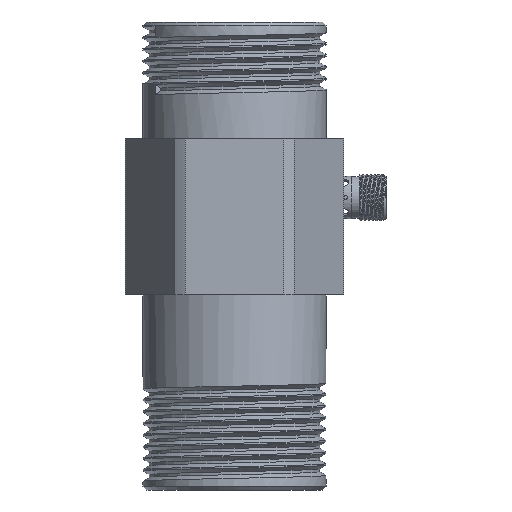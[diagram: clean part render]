
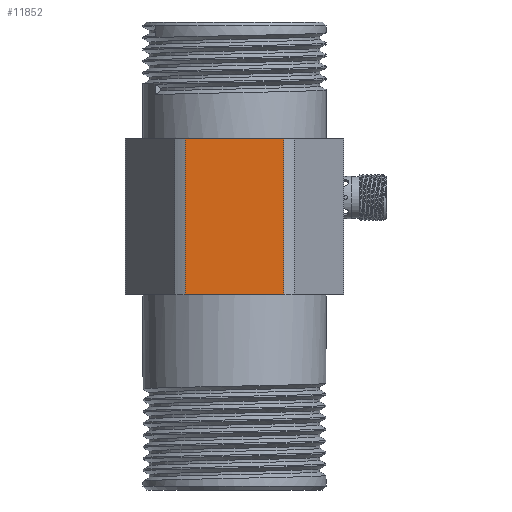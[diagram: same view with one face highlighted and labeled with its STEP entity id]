
A CAD part, front view. The second image highlights one B-rep face of the part: STEP entity #11852.
In plain terms, the highlighted planar face has unit normal (0, -1, 0) as drawn and (-0.5, -0.866, 0) by its records, which use the part's own axes.
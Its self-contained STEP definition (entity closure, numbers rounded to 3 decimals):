
#922 = DIRECTION ( 'NONE',  ( -0.5, -0.866, 0. ) ) ;
#1337 = VECTOR ( 'NONE', #17941, 1000. ) ;
#1445 = VECTOR ( 'NONE', #17971, 1000. ) ;
#1850 = VECTOR ( 'NONE', #9676, 1000. ) ;
#2015 = EDGE_LOOP ( 'NONE', ( #13960, #4969, #20098, #20766 ) ) ;
#2734 = CARTESIAN_POINT ( 'NONE',  ( -25., -14.434, -10. ) ) ;
#3015 = LINE ( 'NONE', #8627, #1337 ) ;
#3712 = DIRECTION ( 'NONE',  ( 0., 0., -1. ) ) ;
#4969 = ORIENTED_EDGE ( 'NONE', *, *, #23495, .T. ) ;
#5467 = EDGE_CURVE ( 'NONE', #8408, #7662, #12783, .T. ) ;
#6219 = CARTESIAN_POINT ( 'NONE',  ( -23.42, -15.346, -10. ) ) ;
#7662 = VERTEX_POINT ( 'NONE', #12949 ) ;
#8336 = CARTESIAN_POINT ( 'NONE',  ( -1.58, -27.955, -10. ) ) ;
#8408 = VERTEX_POINT ( 'NONE', #16759 ) ;
#8453 = FACE_OUTER_BOUND ( 'NONE', #2015, .T. ) ;
#8569 = VECTOR ( 'NONE', #3712, 1000. ) ;
#8627 = CARTESIAN_POINT ( 'NONE',  ( -25., -14.434, -10. ) ) ;
#9676 = DIRECTION ( 'NONE',  ( -0.866, 0.5, 0. ) ) ;
#10125 = DIRECTION ( 'NONE',  ( 0.866, -0.5, 0. ) ) ;
#11852 = ADVANCED_FACE ( 'NONE', ( #8453 ), #11924, .T. ) ;
#11924 = PLANE ( 'NONE',  #21775 ) ;
#12783 = LINE ( 'NONE', #18639, #1850 ) ;
#12790 = CARTESIAN_POINT ( 'NONE',  ( -23.42, -15.346, -37. ) ) ;
#12949 = CARTESIAN_POINT ( 'NONE',  ( -23.42, -15.346, 30. ) ) ;
#13356 = VERTEX_POINT ( 'NONE', #6219 ) ;
#13960 = ORIENTED_EDGE ( 'NONE', *, *, #22228, .T. ) ;
#14639 = EDGE_CURVE ( 'NONE', #7662, #13356, #18043, .T. ) ;
#16291 = LINE ( 'NONE', #23582, #1445 ) ;
#16759 = CARTESIAN_POINT ( 'NONE',  ( -1.58, -27.955, 30. ) ) ;
#16934 = VERTEX_POINT ( 'NONE', #8336 ) ;
#17941 = DIRECTION ( 'NONE',  ( 0.866, -0.5, 0. ) ) ;
#17971 = DIRECTION ( 'NONE',  ( 0., 0., 1. ) ) ;
#18043 = LINE ( 'NONE', #12790, #8569 ) ;
#18639 = CARTESIAN_POINT ( 'NONE',  ( -25., -14.434, 30. ) ) ;
#20098 = ORIENTED_EDGE ( 'NONE', *, *, #5467, .T. ) ;
#20766 = ORIENTED_EDGE ( 'NONE', *, *, #14639, .T. ) ;
#21775 = AXIS2_PLACEMENT_3D ( 'NONE', #2734, #922, #10125 ) ;
#22228 = EDGE_CURVE ( 'NONE', #13356, #16934, #3015, .T. ) ;
#23495 = EDGE_CURVE ( 'NONE', #16934, #8408, #16291, .T. ) ;
#23582 = CARTESIAN_POINT ( 'NONE',  ( -1.58, -27.955, -37. ) ) ;
